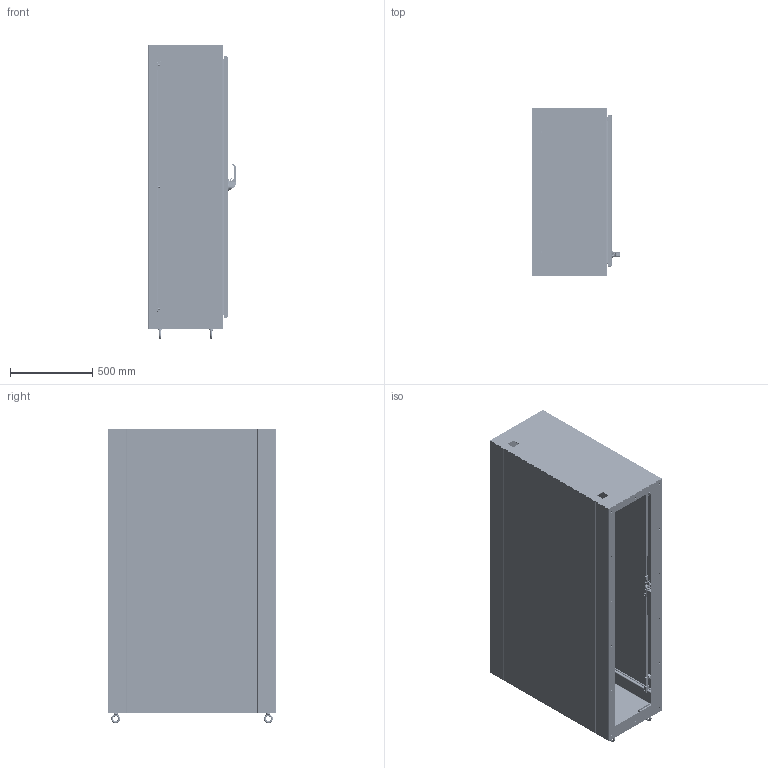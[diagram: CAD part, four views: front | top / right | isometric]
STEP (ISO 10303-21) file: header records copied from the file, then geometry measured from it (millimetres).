
FILE_DESCRIPTION((''),'2;1');
FILE_NAME('MODEL-459_ASM','2023-09-26T08:30:38',('mikek'),('SAGINAW CONTROL & ENGINEERING'),'CREO PARAMETRIC BY PTC INC, 2021284','CREO PARAMETRIC BY PTC INC, 2021284','');
FILE_SCHEMA(('AUTOMOTIVE_DESIGN { 1 0 10303 214 1 1 1 1 }'));
Length unit declared in the file: inch
Products named in the file (76): MODEL-459-L-SD; MODEL-459-TP; MODEL-459-R-SD; MODEL-459-BTM; MODEL-459-DR; 100837; 100957_HANDLE; 100957_HANDLE_INSERT; 100957_SHAFT_CAM; 100957_ADAPTER_CAM; 100957_NUT_CAM; 100957_BASE; 100957_O-RING; 100957_WASHER_SEALING; 100957_NUT_MOUNTING_LARGE; 100957_NUT_MOUNTING_SMALL; 100957_SCREW_SMALL; 100957_PADLOCK_CATCH; 100957_STOP_CAM; 100957_ASM; 102237; 100030; 102237_ASM; MODEL-459-ROD-UPR; 128146; 128145; 128144; 102482; MODEL-459-ROD-UPR_ASM; 128143; 100882; 112504; MODEL-459-ROD-LWR; MODEL-459-ROD-LWR_ASM; MODEL-459-PR-GSKT; 128257; 128257_ASM; 126393; 102483; 101369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
Assembly tree (144 placements, depth 4):
  MODEL-459_ASM
    MODEL-459-L-SD
    MODEL-459-TP
    MODEL-459-R-SD
    MODEL-459-BTM
    MODEL-459-DOOR-ASSY_ASM
      MODEL-459-DR
      100837  x3
      100957_ASM
        100957_HANDLE
        100957_HANDLE_INSERT
        100957_SHAFT_CAM
        100957_ADAPTER_CAM
        100957_NUT_CAM
        100957_BASE
        100957_O-RING
        100957_WASHER_SEALING
        100957_NUT_MOUNTING_LARGE
        100957_NUT_MOUNTING_SMALL
        100957_SCREW_SMALL
        100957_PADLOCK_CATCH
        100957_STOP_CAM
      102237_ASM
        102237
        100030  x2
      MODEL-459-ROD-UPR_ASM
        MODEL-459-ROD-UPR
        128146
        128145
        128144
        102482  x2
      128143  x2
      100882  x10
      112504  x2
      MODEL-459-ROD-LWR_ASM
        MODEL-459-ROD-LWR
        128146
        128145
        128144
        102482  x2
      MODEL-459-PR-GSKT
      128257_ASM  x4
        128257
      126393  x4
      102483  x4
      101369_ASM  x4
        101369
        101369-STUD
      101221  x4
    MODEL-459-BCK
    100837  x6
    101653  x8
    102238  x2
    121454
    MODEL-459-BB  x3
    130513  x4
    103286_ASM  x4
      100813
      108595
      114504
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Bounding box: 534.57 x 1022.35 x 1788.36 mm (x, y, z)
Volume: 21961979.7 mm3; surface area: 15824996 mm2
Topology: 150 solids, 150 shells, 14260 faces, 36262 edges, 22466 vertices
Faces by surface type: plane 4784, cylinder 4217, bspline 2778, torus 1153, cone 635, sphere 428, extrusion 265
Entity records: 445820 total; most frequent: CARTESIAN_POINT 201689, ORIENTED_EDGE 37384, DIRECTION 35577, PRESENTATION_STYLE_ASSIGNMENT 18868, STYLED_ITEM 18728, EDGE_CURVE 18692, CURVE_STYLE 18644, AXIS2_PLACEMENT_3D 13400
